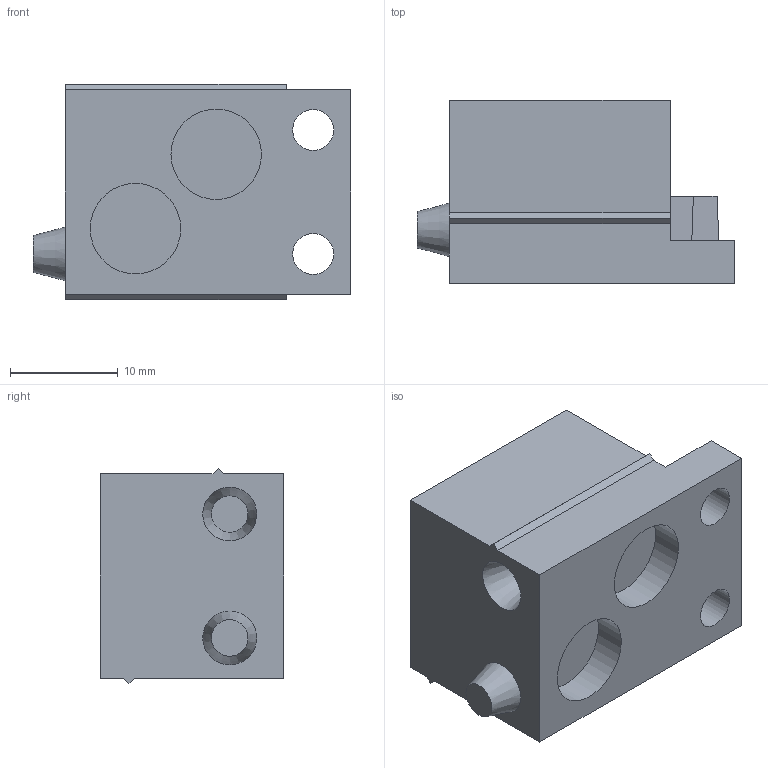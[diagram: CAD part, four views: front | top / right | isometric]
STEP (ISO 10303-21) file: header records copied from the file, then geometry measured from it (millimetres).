
FILE_DESCRIPTION(/* description */ ('STEP AP203'),/* implementation_level */ '2;1');
FILE_NAME(/* name */ '107849 TMS-STPG-GY',/* time_stamp */ '2024-10-04T14:42:49+02:00',/* author */ ('License CC BY-ND 4.0'),/* organization */ ('CADENAS'),/* preprocessor_version */ 'ST-DEVELOPER v19.3',/* originating_system */ 'PARTsolutions',/* authorisation */ ' ');
FILE_SCHEMA (('CONFIG_CONTROL_DESIGN'));
Length unit declared in the file: millimetre
Products named in the file (1): 107849 TMS-STPG-GY
Bounding box: 29.5 x 17 x 20 mm (x, y, z)
Volume: 6412.9 mm3; surface area: 2901.9 mm2
Topology: 1 solids, 1 shells, 36 faces, 84 edges, 56 vertices
Faces by surface type: plane 28, cylinder 6, cone 2
Full cylindrical faces by diameter (mm): 3.8 x2, 8.4 x4
Entity records: 1022 total; most frequent: CARTESIAN_POINT 169, DIRECTION 166, ORIENTED_EDGE 152, EDGE_CURVE 76, LINE 60, VECTOR 60, VERTEX_POINT 56, EDGE_LOOP 54
